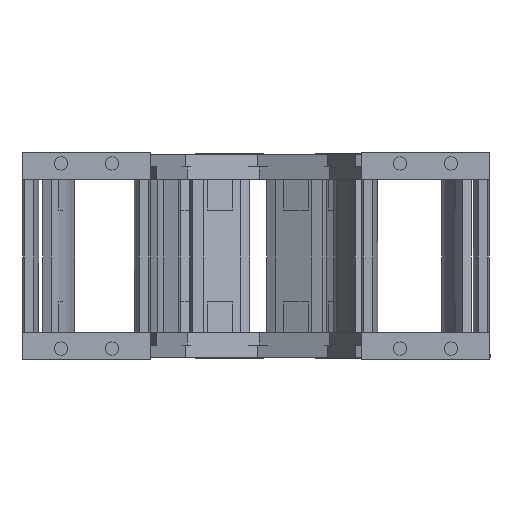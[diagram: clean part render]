
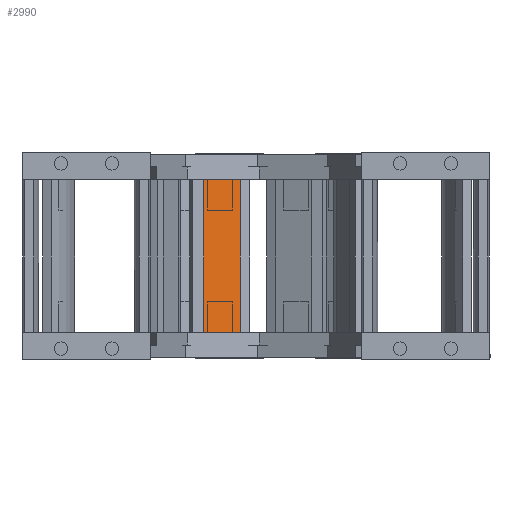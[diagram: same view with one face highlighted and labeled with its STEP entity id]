
A CAD part, left-side view. The second image highlights one B-rep face of the part: STEP entity #2990.
In plain terms, the highlighted planar face has unit normal (-0.93, -0.368, 0) as drawn and (0, -1, 0) by its records, which use the part's own axes.
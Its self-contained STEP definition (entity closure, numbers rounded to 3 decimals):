
#2823=DIRECTION('',(0.,0.,-1.));
#2824=VECTOR('',#2823,90.2);
#2825=CARTESIAN_POINT('',(-11.5,-72.,37.5));
#2826=LINE('',#2825,#2824);
#2852=DIRECTION('',(1.,0.,0.));
#2853=VECTOR('',#2852,23.);
#2854=CARTESIAN_POINT('',(-11.5,-72.,37.5));
#2855=LINE('',#2854,#2853);
#2909=DIRECTION('',(-1.,0.,0.));
#2910=VECTOR('',#2909,23.);
#2911=CARTESIAN_POINT('',(11.5,-72.,-52.7));
#2912=LINE('',#2911,#2910);
#2937=DIRECTION('',(0.,0.,-1.));
#2938=VECTOR('',#2937,90.2);
#2939=CARTESIAN_POINT('',(11.5,-72.,37.5));
#2940=LINE('',#2939,#2938);
#2957=CARTESIAN_POINT('',(11.5,-72.,-52.7));
#2958=VERTEX_POINT('',#2957);
#2959=CARTESIAN_POINT('',(-11.5,-72.,-52.7));
#2960=VERTEX_POINT('',#2959);
#2969=CARTESIAN_POINT('',(11.5,-72.,37.5));
#2970=VERTEX_POINT('',#2969);
#2973=CARTESIAN_POINT('',(-11.5,-72.,37.5));
#2974=VERTEX_POINT('',#2973);
#2975=CARTESIAN_POINT('',(15.5,-72.,-52.7));
#2976=DIRECTION('',(0.,1.,0.));
#2977=DIRECTION('',(-1.,0.,0.));
#2978=AXIS2_PLACEMENT_3D('',#2975,#2976,#2977);
#2979=PLANE('',#2978);
#2981=ORIENTED_EDGE('',*,*,#2980,.F.);
#2983=ORIENTED_EDGE('',*,*,#2982,.T.);
#2985=ORIENTED_EDGE('',*,*,#2984,.T.);
#2987=ORIENTED_EDGE('',*,*,#2986,.T.);
#2988=EDGE_LOOP('',(#2981,#2983,#2985,#2987));
#2989=FACE_OUTER_BOUND('',#2988,.F.);
#2990=ADVANCED_FACE('',(#2989),#2979,.F.);
#2980=EDGE_CURVE('',#2974,#2960,#2826,.T.);
#2982=EDGE_CURVE('',#2974,#2970,#2855,.T.);
#2984=EDGE_CURVE('',#2970,#2958,#2940,.T.);
#2986=EDGE_CURVE('',#2958,#2960,#2912,.T.);
